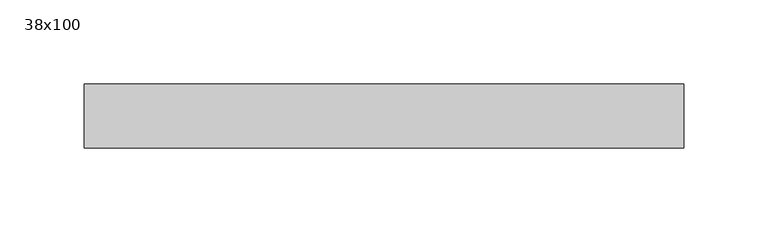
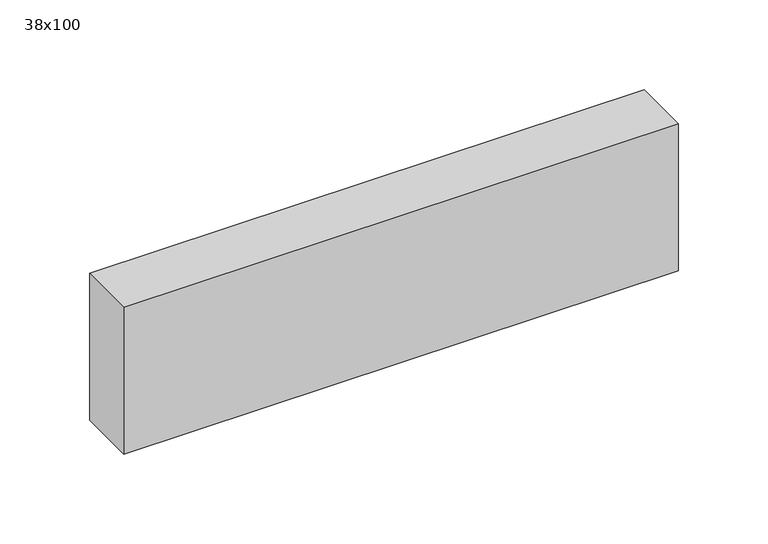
"""IFC4 building model written with IfcOpenShell, lengths in millimetres: beam geometry, Poutre - Bois de construction de dimensions courantes : 38x100."""

from ifc_helpers import new_model, si_unit, frame, origin, place, context, project, spatial, polyline, outline, extrude, source, transform, mapped, element, save


def beam_38x100_f79d69bc(model_context):
    return source(origin(), model_context, "Body", "SweptSolid", [
        extrude(outline(polyline([(174.0, 19.05), (174.0, -19.05), (-183.0, -19.05), (-183.0, 19.05), (174.0, 19.05)])), frame((0.0, 0.0, -50.0), z_axis=(0.0, 0.0, 1.0), x_axis=(1.0, 0.0, 0.0)), (0.0, 0.0, 1.0), 100.0),
    ])


if __name__ == "__main__":
    model = new_model("IFC4")
    model_context = context("Model", 3, world=origin())
    ifc_project = project(units=[si_unit("LENGTHUNIT", "METRE", prefix="MILLI")], contexts=[model_context])
    site = spatial("IfcSite", under=ifc_project)
    building = spatial("IfcBuilding", under=site)
    placement = place(None, origin())
    beam_38x100_shape = beam_38x100_f79d69bc(model_context)
    element("IfcBeam", 1, ObjectType="Poutre - Bois de construction de dimensions courantes : 38x100", at=placement, inside=building, context=model_context, shape_type="MappedRepresentation", body=[
        mapped(beam_38x100_shape, transform((0.0, 0.0, 0.0), x_axis=(1.0, 0.0, 0.0), y_axis=(0.0, 1.0, 0.0), z_axis=(0.0, 0.0, 1.0))),
    ])
    save(model, "model.ifc")
